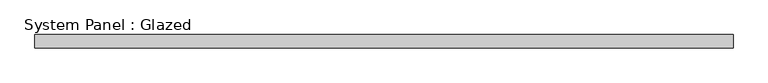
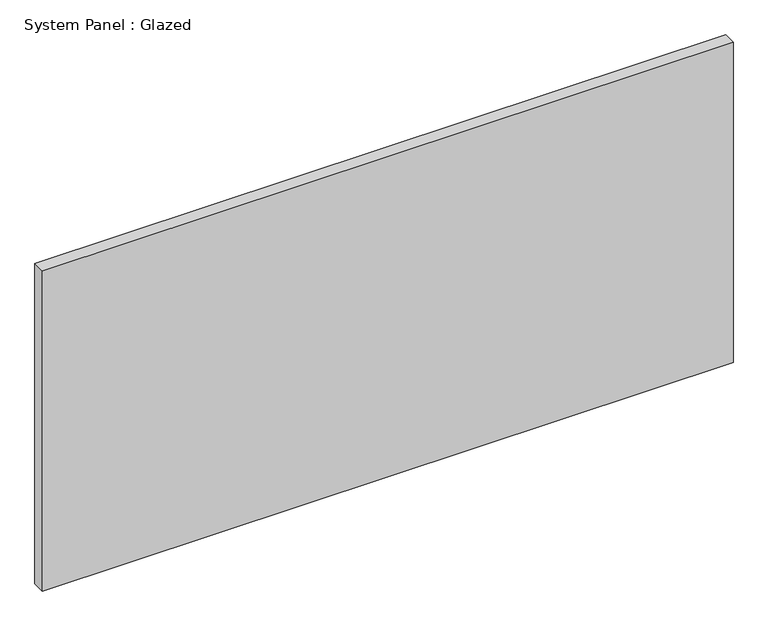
"""IFC4 building model written with IfcOpenShell, lengths in millimetres: plate geometry, System Panel : Glazed."""

from ifc_helpers import new_model, si_unit, origin, origin_with_axes, place, context, project, spatial, polyline, outline, extrude, source, transform, mapped, element, save


def system_panel_glazed_6f6419d9(model_context):
    return source(origin(), model_context, "Body", "SweptSolid", [
        extrude(outline(polyline([(662.4999998, -49.5), (-662.4999998, -49.5), (-662.4999998, -24.5), (662.4999998, -24.5), (662.4999998, -49.5)])), origin_with_axes(), (0.0, 0.0, 1.0), 650.0),
    ])


if __name__ == "__main__":
    model = new_model("IFC4")
    model_context = context("Model", 3, world=origin())
    ifc_project = project(units=[si_unit("LENGTHUNIT", "METRE", prefix="MILLI")], contexts=[model_context])
    site = spatial("IfcSite", under=ifc_project)
    building = spatial("IfcBuilding", under=site)
    placement = place(None, origin())
    system_panel_glazed_shape = system_panel_glazed_6f6419d9(model_context)
    element("IfcPlate", 1, ObjectType="System Panel : Glazed", at=placement, inside=building, context=model_context, shape_type="MappedRepresentation", body=[
        mapped(system_panel_glazed_shape, transform((0.0, 0.0, 0.0), x_axis=(1.0, 0.0, 0.0), y_axis=(0.0, 1.0, 0.0), z_axis=(0.0, 0.0, 1.0))),
    ])
    save(model, "model.ifc")
